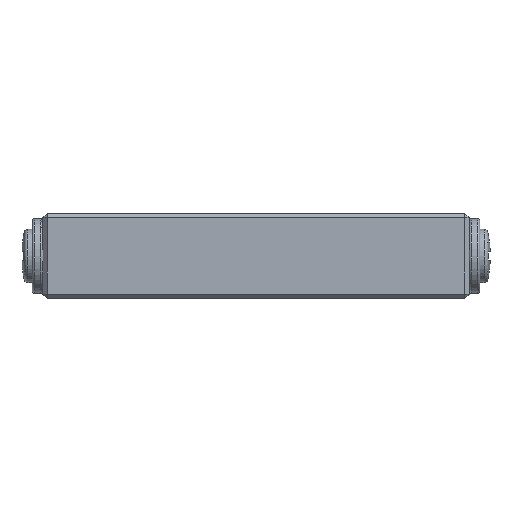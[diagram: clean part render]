
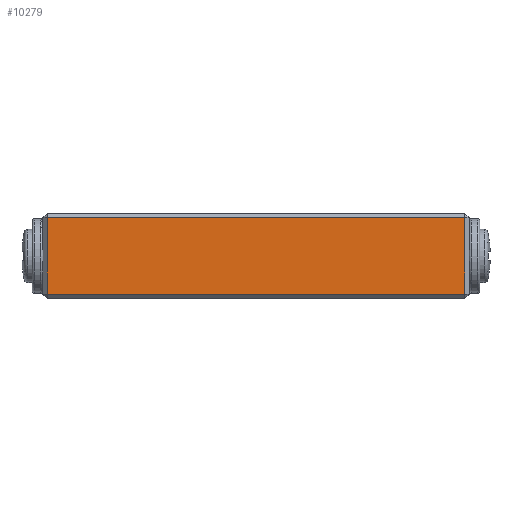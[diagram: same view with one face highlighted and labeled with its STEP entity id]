
A CAD part, top view. The second image highlights one B-rep face of the part: STEP entity #10279.
In plain terms, the highlighted planar face has unit normal (0, 0, 1) as drawn and (0, 0, -1) by its records, which use the part's own axes.
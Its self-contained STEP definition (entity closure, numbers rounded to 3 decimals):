
#373 = DIRECTION ( 'NONE',  ( 0., 0., -1. ) ) ;
#675 = PLANE ( 'NONE',  #2083 ) ;
#729 = CARTESIAN_POINT ( 'NONE',  ( -9.8, 1.8, 0. ) ) ;
#1371 = ORIENTED_EDGE ( 'NONE', *, *, #16282, .T. ) ;
#2083 = AXIS2_PLACEMENT_3D ( 'NONE', #14712, #373, #6757 ) ;
#3941 = LINE ( 'NONE', #8868, #6353 ) ;
#4352 = LINE ( 'NONE', #10745, #19160 ) ;
#4903 = EDGE_CURVE ( 'NONE', #9697, #20359, #4352, .T. ) ;
#5128 = LINE ( 'NONE', #11521, #10607 ) ;
#6353 = VECTOR ( 'NONE', #16714, 1000. ) ;
#6757 = DIRECTION ( 'NONE',  ( 0., 1., 0. ) ) ;
#7361 = VERTEX_POINT ( 'NONE', #18146 ) ;
#7615 = DIRECTION ( 'NONE',  ( 0., -1., 0. ) ) ;
#8135 = DIRECTION ( 'NONE',  ( -1., 0., 0. ) ) ;
#8196 = EDGE_CURVE ( 'NONE', #11041, #9697, #5128, .T. ) ;
#8319 = FACE_OUTER_BOUND ( 'NONE', #20442, .T. ) ;
#8868 = CARTESIAN_POINT ( 'NONE',  ( -9.8, -2., 0. ) ) ;
#9697 = VERTEX_POINT ( 'NONE', #16216 ) ;
#10279 = ADVANCED_FACE ( 'NONE', ( #8319 ), #675, .T. ) ;
#10422 = VECTOR ( 'NONE', #8135, 1000. ) ;
#10607 = VECTOR ( 'NONE', #14562, 1000. ) ;
#10745 = CARTESIAN_POINT ( 'NONE',  ( 9.8, -2., 0. ) ) ;
#11041 = VERTEX_POINT ( 'NONE', #729 ) ;
#11521 = CARTESIAN_POINT ( 'NONE',  ( -10., 1.8, 0. ) ) ;
#12849 = EDGE_CURVE ( 'NONE', #7361, #11041, #3941, .T. ) ;
#14408 = LINE ( 'NONE', #16088, #10422 ) ;
#14562 = DIRECTION ( 'NONE',  ( 1., 0., 0. ) ) ;
#14712 = CARTESIAN_POINT ( 'NONE',  ( -10., -2., 0. ) ) ;
#14771 = ORIENTED_EDGE ( 'NONE', *, *, #8196, .T. ) ;
#15574 = ORIENTED_EDGE ( 'NONE', *, *, #4903, .T. ) ;
#16088 = CARTESIAN_POINT ( 'NONE',  ( -10., -1.8, 0. ) ) ;
#16216 = CARTESIAN_POINT ( 'NONE',  ( 9.8, 1.8, 0. ) ) ;
#16282 = EDGE_CURVE ( 'NONE', #20359, #7361, #14408, .T. ) ;
#16714 = DIRECTION ( 'NONE',  ( 0., 1., 0. ) ) ;
#17952 = ORIENTED_EDGE ( 'NONE', *, *, #12849, .T. ) ;
#18146 = CARTESIAN_POINT ( 'NONE',  ( -9.8, -1.8, 0. ) ) ;
#19160 = VECTOR ( 'NONE', #7615, 1000. ) ;
#20018 = CARTESIAN_POINT ( 'NONE',  ( 9.8, -1.8, 0. ) ) ;
#20359 = VERTEX_POINT ( 'NONE', #20018 ) ;
#20442 = EDGE_LOOP ( 'NONE', ( #14771, #15574, #1371, #17952 ) ) ;
